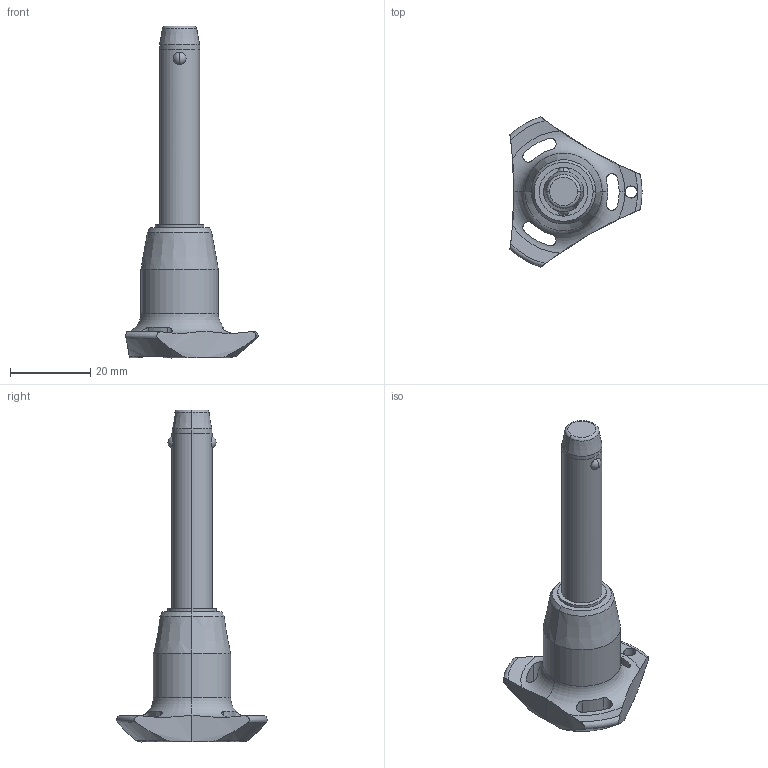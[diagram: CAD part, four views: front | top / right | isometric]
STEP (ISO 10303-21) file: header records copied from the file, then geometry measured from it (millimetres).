
FILE_DESCRIPTION (( 'STEP AP203' ), '1' );
FILE_NAME ('QR1736.M10-040-T.step', '2025-11-13T11:58:03', ( '' ), ( '' ), 'SwSTEP 2.0', 'SolidWorks 2019', '' );
FILE_SCHEMA (( 'CONFIG_CONTROL_DESIGN' ));
Length unit declared in the file: millimetre
Products named in the file (1): QR1736.M10-040-T
Bounding box: 33 x 37.51 x 82.9 mm (x, y, z)
Volume: 14221.2 mm3; surface area: 5421.3 mm2
Topology: 1 solids, 1 shells, 68 faces, 180 edges, 113 vertices
Faces by surface type: cylinder 32, cone 14, torus 11, sphere 6, plane 5
Entity records: 2838 total; most frequent: CARTESIAN_POINT 1098, ORIENTED_EDGE 360, DIRECTION 347, EDGE_CURVE 180, AXIS2_PLACEMENT_3D 154, VERTEX_POINT 113, CIRCLE 85, EDGE_LOOP 75
